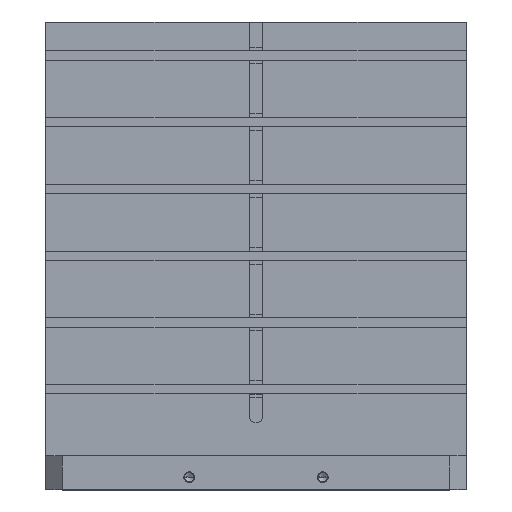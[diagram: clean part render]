
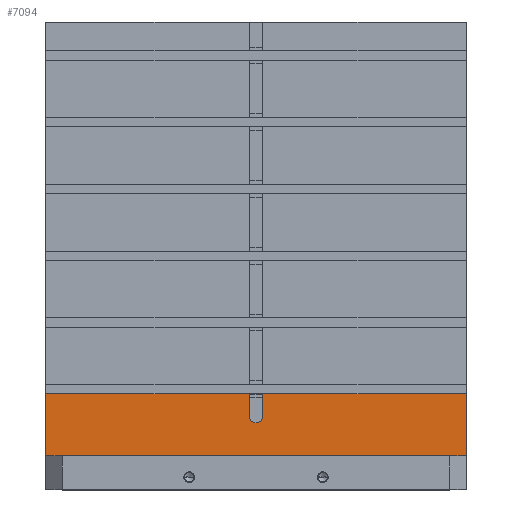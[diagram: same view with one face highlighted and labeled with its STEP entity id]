
A CAD part, top view. The second image highlights one B-rep face of the part: STEP entity #7094.
In plain terms, the highlighted planar face has unit normal (0, 0, 1).
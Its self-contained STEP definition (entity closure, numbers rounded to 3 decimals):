
#69=DIRECTION('',(1.,0.,0.));
#70=VECTOR('',#69,630.);
#71=CARTESIAN_POINT('',(-315.,0.,125.));
#72=LINE('',#71,#70);
#2025=DIRECTION('',(0.,1.,0.));
#2026=VECTOR('',#2025,93.);
#2027=CARTESIAN_POINT('',(315.,0.,125.));
#2028=LINE('',#2027,#2026);
#2385=DIRECTION('',(0.,-1.,0.));
#2386=VECTOR('',#2385,33.);
#2387=CARTESIAN_POINT('',(-10.,93.,125.));
#2388=LINE('',#2387,#2386);
#2389=CARTESIAN_POINT('',(0.,60.,125.));
#2390=DIRECTION('',(0.,0.,1.));
#2391=DIRECTION('',(-1.,0.,0.));
#2392=AXIS2_PLACEMENT_3D('',#2389,#2390,#2391);
#2394=DIRECTION('',(0.,-1.,0.));
#2395=VECTOR('',#2394,33.);
#2396=CARTESIAN_POINT('',(10.,93.,125.));
#2397=LINE('',#2396,#2395);
#2398=DIRECTION('',(1.,0.,0.));
#2399=VECTOR('',#2398,305.);
#2400=CARTESIAN_POINT('',(10.,93.,125.));
#2401=LINE('',#2400,#2399);
#2402=DIRECTION('',(0.,1.,0.));
#2403=VECTOR('',#2402,93.);
#2404=CARTESIAN_POINT('',(-315.,0.,125.));
#2405=LINE('',#2404,#2403);
#2406=DIRECTION('',(1.,0.,0.));
#2407=VECTOR('',#2406,305.);
#2408=CARTESIAN_POINT('',(-315.,93.,125.));
#2409=LINE('',#2408,#2407);
#3201=CARTESIAN_POINT('',(-315.,0.,125.));
#3202=CARTESIAN_POINT('',(315.,0.,125.));
#3203=VERTEX_POINT('',#3201);
#3204=VERTEX_POINT('',#3202);
#3943=CARTESIAN_POINT('',(-315.,93.,125.));
#3944=VERTEX_POINT('',#3943);
#3947=CARTESIAN_POINT('',(315.,93.,125.));
#3948=VERTEX_POINT('',#3947);
#4147=CARTESIAN_POINT('',(10.,93.,125.));
#4149=VERTEX_POINT('',#4147);
#4153=CARTESIAN_POINT('',(-10.,93.,125.));
#4154=VERTEX_POINT('',#4153);
#4211=CARTESIAN_POINT('',(10.,60.,125.));
#4212=VERTEX_POINT('',#4211);
#4213=CARTESIAN_POINT('',(-10.,60.,125.));
#4214=VERTEX_POINT('',#4213);
#7075=CARTESIAN_POINT('',(-315.,0.,125.));
#7076=DIRECTION('',(0.,0.,1.));
#7077=DIRECTION('',(1.,0.,0.));
#7078=AXIS2_PLACEMENT_3D('',#7075,#7076,#7077);
#7079=PLANE('',#7078);
#7081=ORIENTED_EDGE('',*,*,#7080,.T.);
#7083=ORIENTED_EDGE('',*,*,#7082,.T.);
#7084=ORIENTED_EDGE('',*,*,#4876,.F.);
#7086=ORIENTED_EDGE('',*,*,#7085,.T.);
#7087=ORIENTED_EDGE('',*,*,#6737,.F.);
#7088=ORIENTED_EDGE('',*,*,#4224,.F.);
#7089=ORIENTED_EDGE('',*,*,#4564,.T.);
#7091=ORIENTED_EDGE('',*,*,#7090,.T.);
#7092=EDGE_LOOP('',(#7081,#7083,#7084,#7086,#7087,#7088,#7089,#7091));
#7093=FACE_OUTER_BOUND('',#7092,.F.);
#7094=ADVANCED_FACE('',(#7093),#7079,.T.);
#2393=CIRCLE('',#2392,10.);
#4224=EDGE_CURVE('',#3203,#3204,#72,.T.);
#4564=EDGE_CURVE('',#3203,#3944,#2405,.T.);
#4876=EDGE_CURVE('',#4149,#4212,#2397,.T.);
#6737=EDGE_CURVE('',#3204,#3948,#2028,.T.);
#7080=EDGE_CURVE('',#4154,#4214,#2388,.T.);
#7082=EDGE_CURVE('',#4214,#4212,#2393,.T.);
#7085=EDGE_CURVE('',#4149,#3948,#2401,.T.);
#7090=EDGE_CURVE('',#3944,#4154,#2409,.T.);
